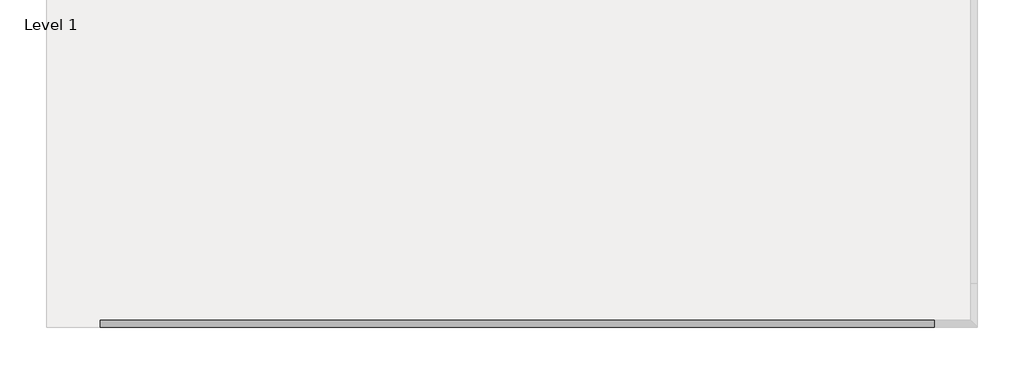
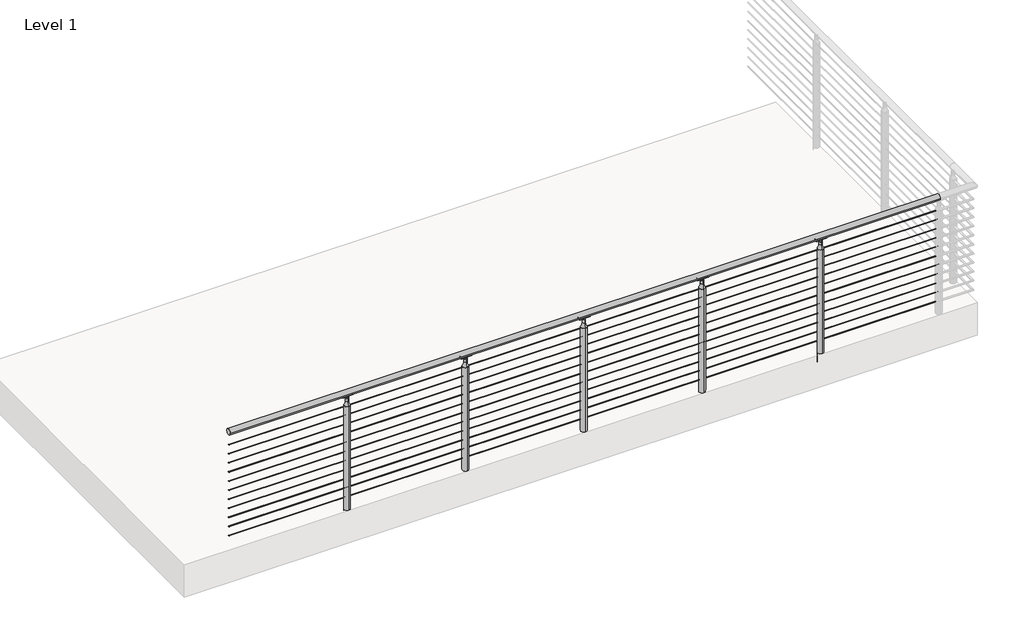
# One storey, part 13 of 21: 1 railing.
"""IFC4 building model written with IfcOpenShell, lengths in millimetres."""

from ifc_helpers import new_model, si_unit, point, frame, frame_2d, origin, place, context, project, spatial, polyline, circle_curve, ellipse_curve, trimmed, segment, composite_curve, outline, extrude, element, save
from ifc_brep_helpers import plane_surface, cylinder_surface, revolved_surface, advanced_brep

model = new_model("IFC4")

# Units and contexts
model_context = context("Model", 3, world=origin())
ifc_project = project(units=[si_unit("LENGTHUNIT", "METRE", prefix="MILLI")], contexts=[model_context])

# Site, building, storey
site = spatial("IfcSite", under=ifc_project)
building = spatial("IfcBuilding", under=site)
storey = spatial("IfcBuildingStorey", under=building, Name="Level 1", Elevation=0.0)

# Railing
placement = place(None, origin())
element("IfcRailing", 1, ObjectType="VIVA-CIRCA-Cable-Weld Mount-Straight", at=placement, inside=storey, context=model_context, shape_type="SolidModel", body=[
    extrude(outline(composite_curve([segment(trimmed(circle_curve(frame_2d((-57159.0334719, 1054.1)), 25.4), [point((-57184.4334719, 1054.1))], [point((-57133.6334719, 1054.1))], False, "CARTESIAN"), True, "CONTINUOUS"), segment(trimmed(circle_curve(frame_2d((-57159.0334719, 1054.1)), 25.4), [point((-57133.6334719, 1054.1))], [point((-57184.4334719, 1054.1))], False, "CARTESIAN"), True, "CONTINUOUS")], self_intersect=False)), frame((38933.2855247, 0.0, 0.0), z_axis=(1.0, 0.0, 0.0), x_axis=(0.0, 1.0, 0.0)), (0.0, 0.0, 1.0), 6096.0),
    extrude(outline(composite_curve([segment(trimmed(circle_curve(frame_2d((-57159.0334719, 937.4124)), 2.3876), [point((-57156.6458719, 937.4124))], [point((-57161.4210719, 937.4124))], False, "CARTESIAN"), True, "CONTINUOUS"), segment(trimmed(circle_curve(frame_2d((-57159.0334719, 937.4124)), 2.3876), [point((-57161.4210719, 937.4124))], [point((-57156.6458719, 937.4124))], False, "CARTESIAN"), True, "CONTINUOUS")], self_intersect=False)), frame((38933.2855247, 0.0, 0.0), z_axis=(1.0, 0.0, 0.0), x_axis=(0.0, 1.0, 0.0)), (0.0, 0.0, 1.0), 6096.0),
    extrude(outline(composite_curve([segment(trimmed(circle_curve(frame_2d((-57159.0334719, 854.8624)), 2.3876), [point((-57156.6458719, 854.8624))], [point((-57161.4210719, 854.8624))], False, "CARTESIAN"), True, "CONTINUOUS"), segment(trimmed(circle_curve(frame_2d((-57159.0334719, 854.8624)), 2.3876), [point((-57161.4210719, 854.8624))], [point((-57156.6458719, 854.8624))], False, "CARTESIAN"), True, "CONTINUOUS")], self_intersect=False)), frame((38933.2855247, 0.0, 0.0), z_axis=(1.0, 0.0, 0.0), x_axis=(0.0, 1.0, 0.0)), (0.0, 0.0, 1.0), 6096.0),
    extrude(outline(composite_curve([segment(trimmed(circle_curve(frame_2d((-57159.0334719, 772.3124)), 2.3876), [point((-57156.6458719, 772.3124))], [point((-57161.4210719, 772.3124))], False, "CARTESIAN"), True, "CONTINUOUS"), segment(trimmed(circle_curve(frame_2d((-57159.0334719, 772.3124)), 2.3876), [point((-57161.4210719, 772.3124))], [point((-57156.6458719, 772.3124))], False, "CARTESIAN"), True, "CONTINUOUS")], self_intersect=False)), frame((38933.2855247, 0.0, 0.0), z_axis=(1.0, 0.0, 0.0), x_axis=(0.0, 1.0, 0.0)), (0.0, 0.0, 1.0), 6096.0),
    extrude(outline(composite_curve([segment(trimmed(circle_curve(frame_2d((-57159.0334719, 689.7624)), 2.3876), [point((-57156.6458719, 689.7624))], [point((-57161.4210719, 689.7624))], False, "CARTESIAN"), True, "CONTINUOUS"), segment(trimmed(circle_curve(frame_2d((-57159.0334719, 689.7624)), 2.3876), [point((-57161.4210719, 689.7624))], [point((-57156.6458719, 689.7624))], False, "CARTESIAN"), True, "CONTINUOUS")], self_intersect=False)), frame((38933.2855247, 0.0, 0.0), z_axis=(1.0, 0.0, 0.0), x_axis=(0.0, 1.0, 0.0)), (0.0, 0.0, 1.0), 6096.0),
    extrude(outline(composite_curve([segment(trimmed(circle_curve(frame_2d((-57159.0334719, 607.2124)), 2.3876), [point((-57156.6458719, 607.2124))], [point((-57161.4210719, 607.2124))], False, "CARTESIAN"), True, "CONTINUOUS"), segment(trimmed(circle_curve(frame_2d((-57159.0334719, 607.2124)), 2.3876), [point((-57161.4210719, 607.2124))], [point((-57156.6458719, 607.2124))], False, "CARTESIAN"), True, "CONTINUOUS")], self_intersect=False)), frame((38933.2855247, 0.0, 0.0), z_axis=(1.0, 0.0, 0.0), x_axis=(0.0, 1.0, 0.0)), (0.0, 0.0, 1.0), 6096.0),
    extrude(outline(composite_curve([segment(trimmed(circle_curve(frame_2d((-57159.0334719, 524.6624)), 2.3876), [point((-57156.6458719, 524.6624))], [point((-57161.4210719, 524.6624))], False, "CARTESIAN"), True, "CONTINUOUS"), segment(trimmed(circle_curve(frame_2d((-57159.0334719, 524.6624)), 2.3876), [point((-57161.4210719, 524.6624))], [point((-57156.6458719, 524.6624))], False, "CARTESIAN"), True, "CONTINUOUS")], self_intersect=False)), frame((38933.2855247, 0.0, 0.0), z_axis=(1.0, 0.0, 0.0), x_axis=(0.0, 1.0, 0.0)), (0.0, 0.0, 1.0), 6096.0),
    extrude(outline(composite_curve([segment(trimmed(circle_curve(frame_2d((-57159.0334719, 442.1124)), 2.3876), [point((-57156.6458719, 442.1124))], [point((-57161.4210719, 442.1124))], False, "CARTESIAN"), True, "CONTINUOUS"), segment(trimmed(circle_curve(frame_2d((-57159.0334719, 442.1124)), 2.3876), [point((-57161.4210719, 442.1124))], [point((-57156.6458719, 442.1124))], False, "CARTESIAN"), True, "CONTINUOUS")], self_intersect=False)), frame((38933.2855247, 0.0, 0.0), z_axis=(1.0, 0.0, 0.0), x_axis=(0.0, 1.0, 0.0)), (0.0, 0.0, 1.0), 6096.0),
    extrude(outline(composite_curve([segment(trimmed(circle_curve(frame_2d((-57159.0334719, 359.5624)), 2.3876), [point((-57156.6458719, 359.5624))], [point((-57161.4210719, 359.5624))], False, "CARTESIAN"), True, "CONTINUOUS"), segment(trimmed(circle_curve(frame_2d((-57159.0334719, 359.5624)), 2.3876), [point((-57161.4210719, 359.5624))], [point((-57156.6458719, 359.5624))], False, "CARTESIAN"), True, "CONTINUOUS")], self_intersect=False)), frame((38933.2855247, 0.0, 0.0), z_axis=(1.0, 0.0, 0.0), x_axis=(0.0, 1.0, 0.0)), (0.0, 0.0, 1.0), 6096.0),
    extrude(outline(composite_curve([segment(trimmed(circle_curve(frame_2d((-57159.0334719, 277.0124)), 2.3876), [point((-57156.6458719, 277.0124))], [point((-57161.4210719, 277.0124))], False, "CARTESIAN"), True, "CONTINUOUS"), segment(trimmed(circle_curve(frame_2d((-57159.0334719, 277.0124)), 2.3876), [point((-57161.4210719, 277.0124))], [point((-57156.6458719, 277.0124))], False, "CARTESIAN"), True, "CONTINUOUS")], self_intersect=False)), frame((38933.2855247, 0.0, 0.0), z_axis=(1.0, 0.0, 0.0), x_axis=(0.0, 1.0, 0.0)), (0.0, 0.0, 1.0), 6096.0),
    extrude(outline(composite_curve([segment(trimmed(circle_curve(frame_2d((-57159.0334719, 194.4624)), 2.3876), [point((-57156.6458719, 194.4624))], [point((-57161.4210719, 194.4624))], False, "CARTESIAN"), True, "CONTINUOUS"), segment(trimmed(circle_curve(frame_2d((-57159.0334719, 194.4624)), 2.3876), [point((-57161.4210719, 194.4624))], [point((-57156.6458719, 194.4624))], False, "CARTESIAN"), True, "CONTINUOUS")], self_intersect=False)), frame((38933.2855247, 0.0, 0.0), z_axis=(1.0, 0.0, 0.0), x_axis=(0.0, 1.0, 0.0)), (0.0, 0.0, 1.0), 6096.0),
    extrude(outline(composite_curve([segment(trimmed(circle_curve(frame_2d((-57159.0334719, 111.9124)), 2.3876), [point((-57156.6458719, 111.9124))], [point((-57161.4210719, 111.9124))], False, "CARTESIAN"), True, "CONTINUOUS"), segment(trimmed(circle_curve(frame_2d((-57159.0334719, 111.9124)), 2.3876), [point((-57161.4210719, 111.9124))], [point((-57156.6458719, 111.9124))], False, "CARTESIAN"), True, "CONTINUOUS")], self_intersect=False)), frame((38933.2855247, 0.0, 0.0), z_axis=(1.0, 0.0, 0.0), x_axis=(0.0, 1.0, 0.0)), (0.0, 0.0, 1.0), 6096.0),
    extrude(outline(composite_curve([segment(trimmed(circle_curve(frame_2d((-57158.9367435, 1055.4254922)), 25.4345159), [point((-57171.5005464, 1033.3106679))], [point((-57146.5415097, 1033.2157471))], True, "CARTESIAN"), True, "CONTINUOUS"), segment(trimmed(circle_curve(frame_2d((-57145.2968566, 1030.7132623)), 2.7949225), [point((-57146.5415097, 1033.2157471))], [point((-57143.8195515, 1028.3406769))], False, "CARTESIAN"), True, "CONTINUOUS"), segment(trimmed(circle_curve(frame_2d((-57159.0702066, 1056.1881188)), 31.75), [point((-57143.8195515, 1028.3406769))], [point((-57175.3364438, 1028.9214354))], False, "CARTESIAN"), True, "CONTINUOUS"), segment(trimmed(circle_curve(frame_2d((-57173.048104, 1030.7923545)), 2.9558141), [point((-57175.3364438, 1028.9214354))], [point((-57171.5005464, 1033.3106679))], False, "CARTESIAN"), True, "CONTINUOUS")], self_intersect=False)), frame((43968.4449997, 0.0, 0.0), z_axis=(1.0, 0.0, 0.0), x_axis=(0.0, 1.0, 0.0)), (0.0, 0.0, 1.0), 90.4748),
    extrude(outline(composite_curve([segment(polyline([(1024.6506908, 44040.7503146), (1024.6506908, 43986.6144848)]), True, "CONTINUOUS"), segment(trimmed(circle_curve(frame_2d((1010.282776, 43986.6144848)), 14.3679149), [point((1024.6506908, 43986.6144848))], [point((1010.282776, 44000.9823997))], True, "CARTESIAN"), True, "CONTINUOUS"), segment(trimmed(circle_curve(frame_2d((1010.282776, 44013.6823997)), 12.7), [point((1010.282776, 44000.9823997))], [point((1010.282776, 44026.3823997))], False, "CARTESIAN"), True, "CONTINUOUS"), segment(trimmed(circle_curve(frame_2d((1010.282776, 44040.7503146)), 14.3679149), [point((1010.282776, 44026.3823997))], [point((1024.6506908, 44040.7503146))], True, "CARTESIAN"), True, "CONTINUOUS")], self_intersect=False)), frame((0.0, -57161.5734719, 0.0), z_axis=(0.0, 1.0, 0.0), x_axis=(0.0, 0.0, 1.0)), (0.0, 0.0, 1.0), 5.08),
    advanced_brep(
    [(44013.6823997, -57184.4328697, 941.1347854), (44013.6823997, -57133.6340741, 941.1347854), (44013.6823997, -57133.6340741, -88.9), (44013.6823997, -57184.4328697, -88.9), (44013.6823997, -57171.7714404, 979.3486202), (44013.6823997, -57146.2955033, 979.3486202), (44013.6823997, -57171.7714404, 1008.5779599), (44013.6823997, -57146.2955033, 1008.5779599), (44013.6823997, -57159.0334719, 1015.238668), (44013.6823997, -57159.0334719, -88.9)],
    [
        (0, 1, circle_curve(frame((44013.6823997, -57159.0334719, 941.1347854), z_axis=(0.0, 0.0, -1.0), x_axis=(0.0, 1.0, 0.0)), 25.3993978)),
        (1, 2),
        (2, 3, circle_curve(frame((44013.6823997, -57159.0334719, -88.9), z_axis=(0.0, 0.0, 1.0), x_axis=(0.0, 1.0, 0.0)), 25.3993978)),
        (3, 0),
        (1, 0, circle_curve(frame((44013.6823997, -57159.0334719, 941.1347854), z_axis=(0.0, 0.0, -1.0), x_axis=(0.0, 1.0, 0.0)), 25.3993978)),
        (3, 2, circle_curve(frame((44013.6823997, -57159.0334719, -88.9), z_axis=(0.0, 0.0, 1.0), x_axis=(0.0, 1.0, 0.0)), 25.3993978)),
        (4, 5, circle_curve(frame((44013.6823997, -57159.0334719, 979.3486202), z_axis=(0.0, 0.0, -1.0), x_axis=(0.0, 1.0, 0.0)), 12.7379685)),
        (5, 1, circle_curve(frame((44013.6823997, -57082.297635, 979.3486202), z_axis=(1.0, 0.0, 0.0), x_axis=(0.0, 1.0, 0.0)), 63.9978683)),
        (0, 4, circle_curve(frame((44013.6823997, -57235.7693087, 979.3486202), z_axis=(1.0, 0.0, 0.0), x_axis=(0.0, -1.0, 0.0)), 63.9978683)),
        (5, 4, circle_curve(frame((44013.6823997, -57159.0334719, 979.3486202), z_axis=(0.0, 0.0, -1.0), x_axis=(0.0, 1.0, 0.0)), 12.7379685)),
        (6, 7, circle_curve(frame((44013.6823997, -57159.0334719, 1008.5779599), z_axis=(0.0, 0.0, -1.0), x_axis=(0.0, 1.0, 0.0)), 12.7379685)),
        (7, 5),
        (4, 6),
        (7, 6, circle_curve(frame((44013.6823997, -57159.0334719, 1008.5779599), z_axis=(0.0, 0.0, -1.0), x_axis=(0.0, 1.0, 0.0)), 12.7379685)),
        (8, 7, circle_curve(frame((44013.6823997, -57159.0334719, 999.7282394), z_axis=(-1.0, 0.0, 0.0), x_axis=(0.0, 1.0, 0.0)), 15.5104286)),
        (6, 8, circle_curve(frame((44013.6823997, -57159.0334719, 999.7282394), z_axis=(-1.0, 0.0, 0.0), x_axis=(0.0, -1.0, 0.0)), 15.5104286)),
        (2, 9),
        (9, 3),
    ],
    [
        cylinder_surface(frame((44013.6823997, -57159.0334719, 1104.9), z_axis=(0.0, 0.0, 1.0), x_axis=(0.0, 1.0, 0.0)), 25.3993978),
        revolved_surface(trimmed(ellipse_curve(frame((44013.6823997, -57082.297635, 979.3486202), z_axis=(-1.0, 0.0, 0.0), x_axis=(0.0, 1.0, 0.0)), 63.9978683, 63.9978683), [point((44013.6823997, -57133.6340741, 941.1347854))], [point((44013.6823997, -57146.2955033, 979.3486202))], True, "CARTESIAN"), (44013.6823997, -57159.0334719, 1104.9), (0.0, 0.0, 1.0)),
        cylinder_surface(frame((44013.6823997, -57159.0334719, 1104.9), z_axis=(0.0, 0.0, 1.0), x_axis=(0.0, 1.0, 0.0)), 12.7379685),
        revolved_surface(trimmed(ellipse_curve(frame((44013.6823997, -57159.0334719, 999.7282394), z_axis=(1.0, 0.0, 0.0), x_axis=(0.0, 1.0, 0.0)), 15.5104286, 15.5104286), [point((44013.6823997, -57146.2955033, 1008.5779599))], [point((44013.6823997, -57159.0334719, 1015.238668))], True, "CARTESIAN"), (44013.6823997, -57159.0334719, 1104.9), (0.0, 0.0, 1.0)),
        plane_surface(frame((44013.6823997, -57159.0334719, -88.9), z_axis=(0.0, 0.0, -1.0), x_axis=(0.0, 1.0, 0.0))),
    ],
    [
        (0, [[1, 2, 3, 4]]),
        (0, [[5, -4, 6, -2]]),
        (1, [[7, 8, -1, 9]]),
        (1, [[10, -9, -5, -8]]),
        (2, [[11, 12, -7, 13]]),
        (2, [[14, -13, -10, -12]]),
        (3, [[15, -11, 16]]),
        (3, [[-16, -14, -15]]),
        (4, [[-3, 17, 18]]),
        (4, [[-6, -18, -17]]),
    ],
),
    extrude(outline(composite_curve([segment(trimmed(circle_curve(frame_2d((-57158.9367435, 1055.4254922)), 25.4345159), [point((-57171.5005464, 1033.3106679))], [point((-57146.5415097, 1033.2157471))], True, "CARTESIAN"), True, "CONTINUOUS"), segment(trimmed(circle_curve(frame_2d((-57145.2968566, 1030.7132623)), 2.7949225), [point((-57146.5415097, 1033.2157471))], [point((-57143.8195515, 1028.3406769))], False, "CARTESIAN"), True, "CONTINUOUS"), segment(trimmed(circle_curve(frame_2d((-57159.0702066, 1056.1881188)), 31.75), [point((-57143.8195515, 1028.3406769))], [point((-57175.3364438, 1028.9214354))], False, "CARTESIAN"), True, "CONTINUOUS"), segment(trimmed(circle_curve(frame_2d((-57173.048104, 1030.7923545)), 2.9558141), [point((-57175.3364438, 1028.9214354))], [point((-57171.5005464, 1033.3106679))], False, "CARTESIAN"), True, "CONTINUOUS")], self_intersect=False)), frame((42952.4449997, 0.0, 0.0), z_axis=(1.0, 0.0, 0.0), x_axis=(0.0, 1.0, 0.0)), (0.0, 0.0, 1.0), 90.4748),
    extrude(outline(composite_curve([segment(polyline([(1024.6506908, 43024.7503146), (1024.6506908, 42970.6144848)]), True, "CONTINUOUS"), segment(trimmed(circle_curve(frame_2d((1010.282776, 42970.6144848)), 14.3679149), [point((1024.6506908, 42970.6144848))], [point((1010.282776, 42984.9823997))], True, "CARTESIAN"), True, "CONTINUOUS"), segment(trimmed(circle_curve(frame_2d((1010.282776, 42997.6823997)), 12.7), [point((1010.282776, 42984.9823997))], [point((1010.282776, 43010.3823997))], False, "CARTESIAN"), True, "CONTINUOUS"), segment(trimmed(circle_curve(frame_2d((1010.282776, 43024.7503146)), 14.3679149), [point((1010.282776, 43010.3823997))], [point((1024.6506908, 43024.7503146))], True, "CARTESIAN"), True, "CONTINUOUS")], self_intersect=False)), frame((0.0, -57161.5734719, 0.0), z_axis=(0.0, 1.0, 0.0), x_axis=(0.0, 0.0, 1.0)), (0.0, 0.0, 1.0), 5.08),
    advanced_brep(
    [(42997.6823997, -57184.4328697, 941.1347854), (42997.6823997, -57133.6340741, 941.1347854), (42997.6823997, -57133.6340741, -88.9), (42997.6823997, -57184.4328697, -88.9), (42997.6823997, -57171.7714404, 979.3486202), (42997.6823997, -57146.2955033, 979.3486202), (42997.6823997, -57171.7714404, 1008.5779599), (42997.6823997, -57146.2955033, 1008.5779599), (42997.6823997, -57159.0334719, 1015.238668), (42997.6823997, -57159.0334719, -88.9)],
    [
        (0, 1, circle_curve(frame((42997.6823997, -57159.0334719, 941.1347854), z_axis=(0.0, 0.0, -1.0), x_axis=(0.0, 1.0, 0.0)), 25.3993978)),
        (1, 2),
        (2, 3, circle_curve(frame((42997.6823997, -57159.0334719, -88.9), z_axis=(0.0, 0.0, 1.0), x_axis=(0.0, 1.0, 0.0)), 25.3993978)),
        (3, 0),
        (1, 0, circle_curve(frame((42997.6823997, -57159.0334719, 941.1347854), z_axis=(0.0, 0.0, -1.0), x_axis=(0.0, 1.0, 0.0)), 25.3993978)),
        (3, 2, circle_curve(frame((42997.6823997, -57159.0334719, -88.9), z_axis=(0.0, 0.0, 1.0), x_axis=(0.0, 1.0, 0.0)), 25.3993978)),
        (4, 5, circle_curve(frame((42997.6823997, -57159.0334719, 979.3486202), z_axis=(0.0, 0.0, -1.0), x_axis=(0.0, 1.0, 0.0)), 12.7379685)),
        (5, 1, circle_curve(frame((42997.6823997, -57082.297635, 979.3486202), z_axis=(1.0, 0.0, 0.0), x_axis=(0.0, 1.0, 0.0)), 63.9978683)),
        (0, 4, circle_curve(frame((42997.6823997, -57235.7693087, 979.3486202), z_axis=(1.0, 0.0, 0.0), x_axis=(0.0, -1.0, 0.0)), 63.9978683)),
        (5, 4, circle_curve(frame((42997.6823997, -57159.0334719, 979.3486202), z_axis=(0.0, 0.0, -1.0), x_axis=(0.0, 1.0, 0.0)), 12.7379685)),
        (6, 7, circle_curve(frame((42997.6823997, -57159.0334719, 1008.5779599), z_axis=(0.0, 0.0, -1.0), x_axis=(0.0, 1.0, 0.0)), 12.7379685)),
        (7, 5),
        (4, 6),
        (7, 6, circle_curve(frame((42997.6823997, -57159.0334719, 1008.5779599), z_axis=(0.0, 0.0, -1.0), x_axis=(0.0, 1.0, 0.0)), 12.7379685)),
        (8, 7, circle_curve(frame((42997.6823997, -57159.0334719, 999.7282394), z_axis=(-1.0, 0.0, 0.0), x_axis=(0.0, 1.0, 0.0)), 15.5104286)),
        (6, 8, circle_curve(frame((42997.6823997, -57159.0334719, 999.7282394), z_axis=(-1.0, 0.0, 0.0), x_axis=(0.0, -1.0, 0.0)), 15.5104286)),
        (2, 9),
        (9, 3),
    ],
    [
        cylinder_surface(frame((42997.6823997, -57159.0334719, 1104.9), z_axis=(0.0, 0.0, 1.0), x_axis=(0.0, 1.0, 0.0)), 25.3993978),
        revolved_surface(trimmed(ellipse_curve(frame((42997.6823997, -57082.297635, 979.3486202), z_axis=(-1.0, 0.0, 0.0), x_axis=(0.0, 1.0, 0.0)), 63.9978683, 63.9978683), [point((42997.6823997, -57133.6340741, 941.1347854))], [point((42997.6823997, -57146.2955033, 979.3486202))], True, "CARTESIAN"), (42997.6823997, -57159.0334719, 1104.9), (0.0, 0.0, 1.0)),
        cylinder_surface(frame((42997.6823997, -57159.0334719, 1104.9), z_axis=(0.0, 0.0, 1.0), x_axis=(0.0, 1.0, 0.0)), 12.7379685),
        revolved_surface(trimmed(ellipse_curve(frame((42997.6823997, -57159.0334719, 999.7282394), z_axis=(1.0, 0.0, 0.0), x_axis=(0.0, 1.0, 0.0)), 15.5104286, 15.5104286), [point((42997.6823997, -57146.2955033, 1008.5779599))], [point((42997.6823997, -57159.0334719, 1015.238668))], True, "CARTESIAN"), (42997.6823997, -57159.0334719, 1104.9), (0.0, 0.0, 1.0)),
        plane_surface(frame((42997.6823997, -57159.0334719, -88.9), z_axis=(0.0, 0.0, -1.0), x_axis=(0.0, 1.0, 0.0))),
    ],
    [
        (0, [[1, 2, 3, 4]]),
        (0, [[5, -4, 6, -2]]),
        (1, [[7, 8, -1, 9]]),
        (1, [[10, -9, -5, -8]]),
        (2, [[11, 12, -7, 13]]),
        (2, [[14, -13, -10, -12]]),
        (3, [[15, -11, 16]]),
        (3, [[-16, -14, -15]]),
        (4, [[-3, 17, 18]]),
        (4, [[-6, -18, -17]]),
    ],
),
    extrude(outline(composite_curve([segment(trimmed(circle_curve(frame_2d((-57158.9367435, 1055.4254922)), 25.4345159), [point((-57171.5005464, 1033.3106679))], [point((-57146.5415097, 1033.2157471))], True, "CARTESIAN"), True, "CONTINUOUS"), segment(trimmed(circle_curve(frame_2d((-57145.2968566, 1030.7132623)), 2.7949225), [point((-57146.5415097, 1033.2157471))], [point((-57143.8195515, 1028.3406769))], False, "CARTESIAN"), True, "CONTINUOUS"), segment(trimmed(circle_curve(frame_2d((-57159.0702066, 1056.1881188)), 31.75), [point((-57143.8195515, 1028.3406769))], [point((-57175.3364438, 1028.9214354))], False, "CARTESIAN"), True, "CONTINUOUS"), segment(trimmed(circle_curve(frame_2d((-57173.048104, 1030.7923545)), 2.9558141), [point((-57175.3364438, 1028.9214354))], [point((-57171.5005464, 1033.3106679))], False, "CARTESIAN"), True, "CONTINUOUS")], self_intersect=False)), frame((41936.4449997, 0.0, 0.0), z_axis=(1.0, 0.0, 0.0), x_axis=(0.0, 1.0, 0.0)), (0.0, 0.0, 1.0), 90.4748),
    extrude(outline(composite_curve([segment(polyline([(1024.6506908, 42008.7503146), (1024.6506908, 41954.6144848)]), True, "CONTINUOUS"), segment(trimmed(circle_curve(frame_2d((1010.282776, 41954.6144848)), 14.3679149), [point((1024.6506908, 41954.6144848))], [point((1010.282776, 41968.9823997))], True, "CARTESIAN"), True, "CONTINUOUS"), segment(trimmed(circle_curve(frame_2d((1010.282776, 41981.6823997)), 12.7), [point((1010.282776, 41968.9823997))], [point((1010.282776, 41994.3823997))], False, "CARTESIAN"), True, "CONTINUOUS"), segment(trimmed(circle_curve(frame_2d((1010.282776, 42008.7503146)), 14.3679149), [point((1010.282776, 41994.3823997))], [point((1024.6506908, 42008.7503146))], True, "CARTESIAN"), True, "CONTINUOUS")], self_intersect=False)), frame((0.0, -57161.5734719, 0.0), z_axis=(0.0, 1.0, 0.0), x_axis=(0.0, 0.0, 1.0)), (0.0, 0.0, 1.0), 5.08),
    advanced_brep(
    [(41981.6823997, -57184.4328697, 941.1347854), (41981.6823997, -57133.6340741, 941.1347854), (41981.6823997, -57133.6340741, -88.9), (41981.6823997, -57184.4328697, -88.9), (41981.6823997, -57171.7714404, 979.3486202), (41981.6823997, -57146.2955033, 979.3486202), (41981.6823997, -57171.7714404, 1008.5779599), (41981.6823997, -57146.2955033, 1008.5779599), (41981.6823997, -57159.0334719, 1015.238668), (41981.6823997, -57159.0334719, -88.9)],
    [
        (0, 1, circle_curve(frame((41981.6823997, -57159.0334719, 941.1347854), z_axis=(0.0, 0.0, -1.0), x_axis=(0.0, 1.0, 0.0)), 25.3993978)),
        (1, 2),
        (2, 3, circle_curve(frame((41981.6823997, -57159.0334719, -88.9), z_axis=(0.0, 0.0, 1.0), x_axis=(0.0, 1.0, 0.0)), 25.3993978)),
        (3, 0),
        (1, 0, circle_curve(frame((41981.6823997, -57159.0334719, 941.1347854), z_axis=(0.0, 0.0, -1.0), x_axis=(0.0, 1.0, 0.0)), 25.3993978)),
        (3, 2, circle_curve(frame((41981.6823997, -57159.0334719, -88.9), z_axis=(0.0, 0.0, 1.0), x_axis=(0.0, 1.0, 0.0)), 25.3993978)),
        (4, 5, circle_curve(frame((41981.6823997, -57159.0334719, 979.3486202), z_axis=(0.0, 0.0, -1.0), x_axis=(0.0, 1.0, 0.0)), 12.7379685)),
        (5, 1, circle_curve(frame((41981.6823997, -57082.297635, 979.3486202), z_axis=(1.0, 0.0, 0.0), x_axis=(0.0, 1.0, 0.0)), 63.9978683)),
        (0, 4, circle_curve(frame((41981.6823997, -57235.7693087, 979.3486202), z_axis=(1.0, 0.0, 0.0), x_axis=(0.0, -1.0, 0.0)), 63.9978683)),
        (5, 4, circle_curve(frame((41981.6823997, -57159.0334719, 979.3486202), z_axis=(0.0, 0.0, -1.0), x_axis=(0.0, 1.0, 0.0)), 12.7379685)),
        (6, 7, circle_curve(frame((41981.6823997, -57159.0334719, 1008.5779599), z_axis=(0.0, 0.0, -1.0), x_axis=(0.0, 1.0, 0.0)), 12.7379685)),
        (7, 5),
        (4, 6),
        (7, 6, circle_curve(frame((41981.6823997, -57159.0334719, 1008.5779599), z_axis=(0.0, 0.0, -1.0), x_axis=(0.0, 1.0, 0.0)), 12.7379685)),
        (8, 7, circle_curve(frame((41981.6823997, -57159.0334719, 999.7282394), z_axis=(-1.0, 0.0, 0.0), x_axis=(0.0, 1.0, 0.0)), 15.5104286)),
        (6, 8, circle_curve(frame((41981.6823997, -57159.0334719, 999.7282394), z_axis=(-1.0, 0.0, 0.0), x_axis=(0.0, -1.0, 0.0)), 15.5104286)),
        (2, 9),
        (9, 3),
    ],
    [
        cylinder_surface(frame((41981.6823997, -57159.0334719, 1104.9), z_axis=(0.0, 0.0, 1.0), x_axis=(0.0, 1.0, 0.0)), 25.3993978),
        revolved_surface(trimmed(ellipse_curve(frame((41981.6823997, -57082.297635, 979.3486202), z_axis=(-1.0, 0.0, 0.0), x_axis=(0.0, 1.0, 0.0)), 63.9978683, 63.9978683), [point((41981.6823997, -57133.6340741, 941.1347854))], [point((41981.6823997, -57146.2955033, 979.3486202))], True, "CARTESIAN"), (41981.6823997, -57159.0334719, 1104.9), (0.0, 0.0, 1.0)),
        cylinder_surface(frame((41981.6823997, -57159.0334719, 1104.9), z_axis=(0.0, 0.0, 1.0), x_axis=(0.0, 1.0, 0.0)), 12.7379685),
        revolved_surface(trimmed(ellipse_curve(frame((41981.6823997, -57159.0334719, 999.7282394), z_axis=(1.0, 0.0, 0.0), x_axis=(0.0, 1.0, 0.0)), 15.5104286, 15.5104286), [point((41981.6823997, -57146.2955033, 1008.5779599))], [point((41981.6823997, -57159.0334719, 1015.238668))], True, "CARTESIAN"), (41981.6823997, -57159.0334719, 1104.9), (0.0, 0.0, 1.0)),
        plane_surface(frame((41981.6823997, -57159.0334719, -88.9), z_axis=(0.0, 0.0, -1.0), x_axis=(0.0, 1.0, 0.0))),
    ],
    [
        (0, [[1, 2, 3, 4]]),
        (0, [[5, -4, 6, -2]]),
        (1, [[7, 8, -1, 9]]),
        (1, [[10, -9, -5, -8]]),
        (2, [[11, 12, -7, 13]]),
        (2, [[14, -13, -10, -12]]),
        (3, [[15, -11, 16]]),
        (3, [[-16, -14, -15]]),
        (4, [[-3, 17, 18]]),
        (4, [[-6, -18, -17]]),
    ],
),
    extrude(outline(composite_curve([segment(trimmed(circle_curve(frame_2d((-57158.9367435, 1055.4254922)), 25.4345159), [point((-57171.5005464, 1033.3106679))], [point((-57146.5415097, 1033.2157471))], True, "CARTESIAN"), True, "CONTINUOUS"), segment(trimmed(circle_curve(frame_2d((-57145.2968566, 1030.7132623)), 2.7949225), [point((-57146.5415097, 1033.2157471))], [point((-57143.8195515, 1028.3406769))], False, "CARTESIAN"), True, "CONTINUOUS"), segment(trimmed(circle_curve(frame_2d((-57159.0702066, 1056.1881188)), 31.75), [point((-57143.8195515, 1028.3406769))], [point((-57175.3364438, 1028.9214354))], False, "CARTESIAN"), True, "CONTINUOUS"), segment(trimmed(circle_curve(frame_2d((-57173.048104, 1030.7923545)), 2.9558141), [point((-57175.3364438, 1028.9214354))], [point((-57171.5005464, 1033.3106679))], False, "CARTESIAN"), True, "CONTINUOUS")], self_intersect=False)), frame((40920.4449997, 0.0, 0.0), z_axis=(1.0, 0.0, 0.0), x_axis=(0.0, 1.0, 0.0)), (0.0, 0.0, 1.0), 90.4748),
    extrude(outline(composite_curve([segment(polyline([(1024.6506908, 40992.7503146), (1024.6506908, 40938.6144848)]), True, "CONTINUOUS"), segment(trimmed(circle_curve(frame_2d((1010.282776, 40938.6144848)), 14.3679149), [point((1024.6506908, 40938.6144848))], [point((1010.282776, 40952.9823997))], True, "CARTESIAN"), True, "CONTINUOUS"), segment(trimmed(circle_curve(frame_2d((1010.282776, 40965.6823997)), 12.7), [point((1010.282776, 40952.9823997))], [point((1010.282776, 40978.3823997))], False, "CARTESIAN"), True, "CONTINUOUS"), segment(trimmed(circle_curve(frame_2d((1010.282776, 40992.7503146)), 14.3679149), [point((1010.282776, 40978.3823997))], [point((1024.6506908, 40992.7503146))], True, "CARTESIAN"), True, "CONTINUOUS")], self_intersect=False)), frame((0.0, -57161.5734719, 0.0), z_axis=(0.0, 1.0, 0.0), x_axis=(0.0, 0.0, 1.0)), (0.0, 0.0, 1.0), 5.08),
    advanced_brep(
    [(40965.6823997, -57184.4328697, 941.1347854), (40965.6823997, -57133.6340741, 941.1347854), (40965.6823997, -57133.6340741, -88.9), (40965.6823997, -57184.4328697, -88.9), (40965.6823997, -57171.7714404, 979.3486202), (40965.6823997, -57146.2955033, 979.3486202), (40965.6823997, -57171.7714404, 1008.5779599), (40965.6823997, -57146.2955033, 1008.5779599), (40965.6823997, -57159.0334719, 1015.238668), (40965.6823997, -57159.0334719, -88.9)],
    [
        (0, 1, circle_curve(frame((40965.6823997, -57159.0334719, 941.1347854), z_axis=(0.0, 0.0, -1.0), x_axis=(0.0, 1.0, 0.0)), 25.3993978)),
        (1, 2),
        (2, 3, circle_curve(frame((40965.6823997, -57159.0334719, -88.9), z_axis=(0.0, 0.0, 1.0), x_axis=(0.0, 1.0, 0.0)), 25.3993978)),
        (3, 0),
        (1, 0, circle_curve(frame((40965.6823997, -57159.0334719, 941.1347854), z_axis=(0.0, 0.0, -1.0), x_axis=(0.0, 1.0, 0.0)), 25.3993978)),
        (3, 2, circle_curve(frame((40965.6823997, -57159.0334719, -88.9), z_axis=(0.0, 0.0, 1.0), x_axis=(0.0, 1.0, 0.0)), 25.3993978)),
        (4, 5, circle_curve(frame((40965.6823997, -57159.0334719, 979.3486202), z_axis=(0.0, 0.0, -1.0), x_axis=(0.0, 1.0, 0.0)), 12.7379685)),
        (5, 1, circle_curve(frame((40965.6823997, -57082.297635, 979.3486202), z_axis=(1.0, 0.0, 0.0), x_axis=(0.0, 1.0, 0.0)), 63.9978683)),
        (0, 4, circle_curve(frame((40965.6823997, -57235.7693087, 979.3486202), z_axis=(1.0, 0.0, 0.0), x_axis=(0.0, -1.0, 0.0)), 63.9978683)),
        (5, 4, circle_curve(frame((40965.6823997, -57159.0334719, 979.3486202), z_axis=(0.0, 0.0, -1.0), x_axis=(0.0, 1.0, 0.0)), 12.7379685)),
        (6, 7, circle_curve(frame((40965.6823997, -57159.0334719, 1008.5779599), z_axis=(0.0, 0.0, -1.0), x_axis=(0.0, 1.0, 0.0)), 12.7379685)),
        (7, 5),
        (4, 6),
        (7, 6, circle_curve(frame((40965.6823997, -57159.0334719, 1008.5779599), z_axis=(0.0, 0.0, -1.0), x_axis=(0.0, 1.0, 0.0)), 12.7379685)),
        (8, 7, circle_curve(frame((40965.6823997, -57159.0334719, 999.7282394), z_axis=(-1.0, 0.0, 0.0), x_axis=(0.0, 1.0, 0.0)), 15.5104286)),
        (6, 8, circle_curve(frame((40965.6823997, -57159.0334719, 999.7282394), z_axis=(-1.0, 0.0, 0.0), x_axis=(0.0, -1.0, 0.0)), 15.5104286)),
        (2, 9),
        (9, 3),
    ],
    [
        cylinder_surface(frame((40965.6823997, -57159.0334719, 1104.9), z_axis=(0.0, 0.0, 1.0), x_axis=(0.0, 1.0, 0.0)), 25.3993978),
        revolved_surface(trimmed(ellipse_curve(frame((40965.6823997, -57082.297635, 979.3486202), z_axis=(-1.0, 0.0, 0.0), x_axis=(0.0, 1.0, 0.0)), 63.9978683, 63.9978683), [point((40965.6823997, -57133.6340741, 941.1347854))], [point((40965.6823997, -57146.2955033, 979.3486202))], True, "CARTESIAN"), (40965.6823997, -57159.0334719, 1104.9), (0.0, 0.0, 1.0)),
        cylinder_surface(frame((40965.6823997, -57159.0334719, 1104.9), z_axis=(0.0, 0.0, 1.0), x_axis=(0.0, 1.0, 0.0)), 12.7379685),
        revolved_surface(trimmed(ellipse_curve(frame((40965.6823997, -57159.0334719, 999.7282394), z_axis=(1.0, 0.0, 0.0), x_axis=(0.0, 1.0, 0.0)), 15.5104286, 15.5104286), [point((40965.6823997, -57146.2955033, 1008.5779599))], [point((40965.6823997, -57159.0334719, 1015.238668))], True, "CARTESIAN"), (40965.6823997, -57159.0334719, 1104.9), (0.0, 0.0, 1.0)),
        plane_surface(frame((40965.6823997, -57159.0334719, -88.9), z_axis=(0.0, 0.0, -1.0), x_axis=(0.0, 1.0, 0.0))),
    ],
    [
        (0, [[1, 2, 3, 4]]),
        (0, [[5, -4, 6, -2]]),
        (1, [[7, 8, -1, 9]]),
        (1, [[10, -9, -5, -8]]),
        (2, [[11, 12, -7, 13]]),
        (2, [[14, -13, -10, -12]]),
        (3, [[15, -11, 16]]),
        (3, [[-16, -14, -15]]),
        (4, [[-3, 17, 18]]),
        (4, [[-6, -18, -17]]),
    ],
),
    extrude(outline(composite_curve([segment(trimmed(circle_curve(frame_2d((-57158.9367435, 1055.4254922)), 25.4345159), [point((-57171.5005464, 1033.3106679))], [point((-57146.5415097, 1033.2157471))], True, "CARTESIAN"), True, "CONTINUOUS"), segment(trimmed(circle_curve(frame_2d((-57145.2968566, 1030.7132623)), 2.7949225), [point((-57146.5415097, 1033.2157471))], [point((-57143.8195515, 1028.3406769))], False, "CARTESIAN"), True, "CONTINUOUS"), segment(trimmed(circle_curve(frame_2d((-57159.0702066, 1056.1881188)), 31.75), [point((-57143.8195515, 1028.3406769))], [point((-57175.3364438, 1028.9214354))], False, "CARTESIAN"), True, "CONTINUOUS"), segment(trimmed(circle_curve(frame_2d((-57173.048104, 1030.7923545)), 2.9558141), [point((-57175.3364438, 1028.9214354))], [point((-57171.5005464, 1033.3106679))], False, "CARTESIAN"), True, "CONTINUOUS")], self_intersect=False)), frame((39904.4449997, 0.0, 0.0), z_axis=(1.0, 0.0, 0.0), x_axis=(0.0, 1.0, 0.0)), (0.0, 0.0, 1.0), 90.4748),
    extrude(outline(composite_curve([segment(polyline([(1024.6506908, 39976.7503146), (1024.6506908, 39922.6144848)]), True, "CONTINUOUS"), segment(trimmed(circle_curve(frame_2d((1010.282776, 39922.6144848)), 14.3679149), [point((1024.6506908, 39922.6144848))], [point((1010.282776, 39936.9823997))], True, "CARTESIAN"), True, "CONTINUOUS"), segment(trimmed(circle_curve(frame_2d((1010.282776, 39949.6823997)), 12.7), [point((1010.282776, 39936.9823997))], [point((1010.282776, 39962.3823997))], False, "CARTESIAN"), True, "CONTINUOUS"), segment(trimmed(circle_curve(frame_2d((1010.282776, 39976.7503146)), 14.3679149), [point((1010.282776, 39962.3823997))], [point((1024.6506908, 39976.7503146))], True, "CARTESIAN"), True, "CONTINUOUS")], self_intersect=False)), frame((0.0, -57161.5734719, 0.0), z_axis=(0.0, 1.0, 0.0), x_axis=(0.0, 0.0, 1.0)), (0.0, 0.0, 1.0), 5.08),
    advanced_brep(
    [(39949.6823997, -57184.4328697, 941.1347854), (39949.6823997, -57133.6340741, 941.1347854), (39949.6823997, -57133.6340741, -88.9), (39949.6823997, -57184.4328697, -88.9), (39949.6823997, -57171.7714404, 979.3486202), (39949.6823997, -57146.2955033, 979.3486202), (39949.6823997, -57171.7714404, 1008.5779599), (39949.6823997, -57146.2955033, 1008.5779599), (39949.6823997, -57159.0334719, 1015.238668), (39949.6823997, -57159.0334719, -88.9)],
    [
        (0, 1, circle_curve(frame((39949.6823997, -57159.0334719, 941.1347854), z_axis=(0.0, 0.0, -1.0), x_axis=(0.0, 1.0, 0.0)), 25.3993978)),
        (1, 2),
        (2, 3, circle_curve(frame((39949.6823997, -57159.0334719, -88.9), z_axis=(0.0, 0.0, 1.0), x_axis=(0.0, 1.0, 0.0)), 25.3993978)),
        (3, 0),
        (1, 0, circle_curve(frame((39949.6823997, -57159.0334719, 941.1347854), z_axis=(0.0, 0.0, -1.0), x_axis=(0.0, 1.0, 0.0)), 25.3993978)),
        (3, 2, circle_curve(frame((39949.6823997, -57159.0334719, -88.9), z_axis=(0.0, 0.0, 1.0), x_axis=(0.0, 1.0, 0.0)), 25.3993978)),
        (4, 5, circle_curve(frame((39949.6823997, -57159.0334719, 979.3486202), z_axis=(0.0, 0.0, -1.0), x_axis=(0.0, 1.0, 0.0)), 12.7379685)),
        (5, 1, circle_curve(frame((39949.6823997, -57082.297635, 979.3486202), z_axis=(1.0, 0.0, 0.0), x_axis=(0.0, 1.0, 0.0)), 63.9978683)),
        (0, 4, circle_curve(frame((39949.6823997, -57235.7693087, 979.3486202), z_axis=(1.0, 0.0, 0.0), x_axis=(0.0, -1.0, 0.0)), 63.9978683)),
        (5, 4, circle_curve(frame((39949.6823997, -57159.0334719, 979.3486202), z_axis=(0.0, 0.0, -1.0), x_axis=(0.0, 1.0, 0.0)), 12.7379685)),
        (6, 7, circle_curve(frame((39949.6823997, -57159.0334719, 1008.5779599), z_axis=(0.0, 0.0, -1.0), x_axis=(0.0, 1.0, 0.0)), 12.7379685)),
        (7, 5),
        (4, 6),
        (7, 6, circle_curve(frame((39949.6823997, -57159.0334719, 1008.5779599), z_axis=(0.0, 0.0, -1.0), x_axis=(0.0, 1.0, 0.0)), 12.7379685)),
        (8, 7, circle_curve(frame((39949.6823997, -57159.0334719, 999.7282394), z_axis=(-1.0, 0.0, 0.0), x_axis=(0.0, 1.0, 0.0)), 15.5104286)),
        (6, 8, circle_curve(frame((39949.6823997, -57159.0334719, 999.7282394), z_axis=(-1.0, 0.0, 0.0), x_axis=(0.0, -1.0, 0.0)), 15.5104286)),
        (2, 9),
        (9, 3),
    ],
    [
        cylinder_surface(frame((39949.6823997, -57159.0334719, 1104.9), z_axis=(0.0, 0.0, 1.0), x_axis=(0.0, 1.0, 0.0)), 25.3993978),
        revolved_surface(trimmed(ellipse_curve(frame((39949.6823997, -57082.297635, 979.3486202), z_axis=(-1.0, 0.0, 0.0), x_axis=(0.0, 1.0, 0.0)), 63.9978683, 63.9978683), [point((39949.6823997, -57133.6340741, 941.1347854))], [point((39949.6823997, -57146.2955033, 979.3486202))], True, "CARTESIAN"), (39949.6823997, -57159.0334719, 1104.9), (0.0, 0.0, 1.0)),
        cylinder_surface(frame((39949.6823997, -57159.0334719, 1104.9), z_axis=(0.0, 0.0, 1.0), x_axis=(0.0, 1.0, 0.0)), 12.7379685),
        revolved_surface(trimmed(ellipse_curve(frame((39949.6823997, -57159.0334719, 999.7282394), z_axis=(1.0, 0.0, 0.0), x_axis=(0.0, 1.0, 0.0)), 15.5104286, 15.5104286), [point((39949.6823997, -57146.2955033, 1008.5779599))], [point((39949.6823997, -57159.0334719, 1015.238668))], True, "CARTESIAN"), (39949.6823997, -57159.0334719, 1104.9), (0.0, 0.0, 1.0)),
        plane_surface(frame((39949.6823997, -57159.0334719, -88.9), z_axis=(0.0, 0.0, -1.0), x_axis=(0.0, 1.0, 0.0))),
    ],
    [
        (0, [[1, 2, 3, 4]]),
        (0, [[5, -4, 6, -2]]),
        (1, [[7, 8, -1, 9]]),
        (1, [[10, -9, -5, -8]]),
        (2, [[11, 12, -7, 13]]),
        (2, [[14, -13, -10, -12]]),
        (3, [[15, -11, 16]]),
        (3, [[-16, -14, -15]]),
        (4, [[-3, 17, 18]]),
        (4, [[-6, -18, -17]]),
    ],
),
])

save(model, "model.ifc")
